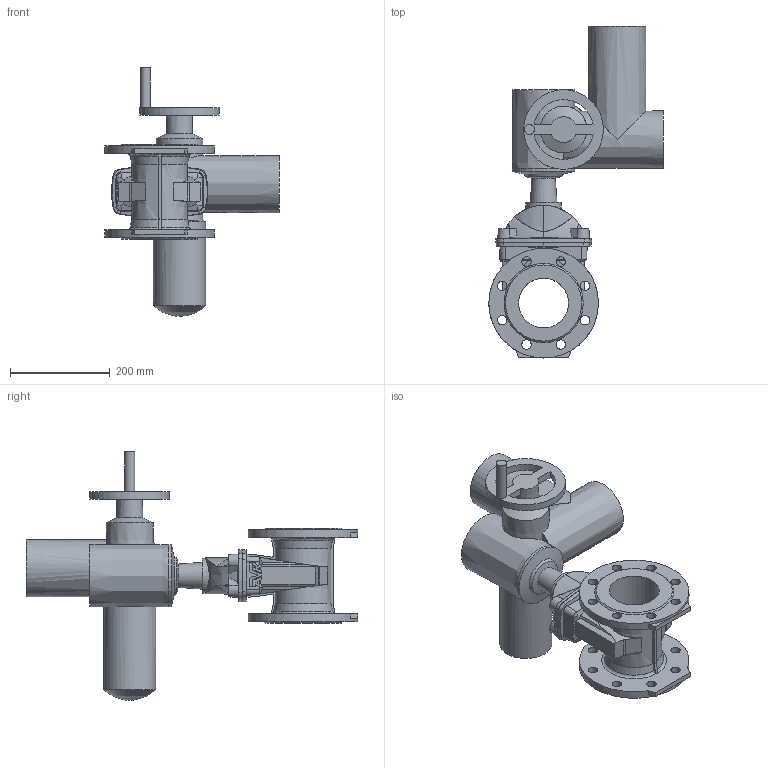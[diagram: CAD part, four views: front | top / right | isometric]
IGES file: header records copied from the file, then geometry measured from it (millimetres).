
Start section: SolidWorks IGES file using analytic representation for surfaces
Global section: file name: \\avksan2\techshare\PBM outline export from Enovia\O_15_42_DN100_X1XXX099_SA07.6_AA0.igs; native system: SolidWorks 2012; preprocessor: SolidWorks 2012; author: pbm; date: 170320.133357; units: inch
Bounding box: 350 x 666.2 x 499 mm (x, y, z)
Surface area: 742718.7 mm2 (no closed solid volume)
Topology: 0 solids, 0 shells, 341 faces, 1955 edges, 1874 vertices
Faces by surface type: revolution 196, bspline 145
